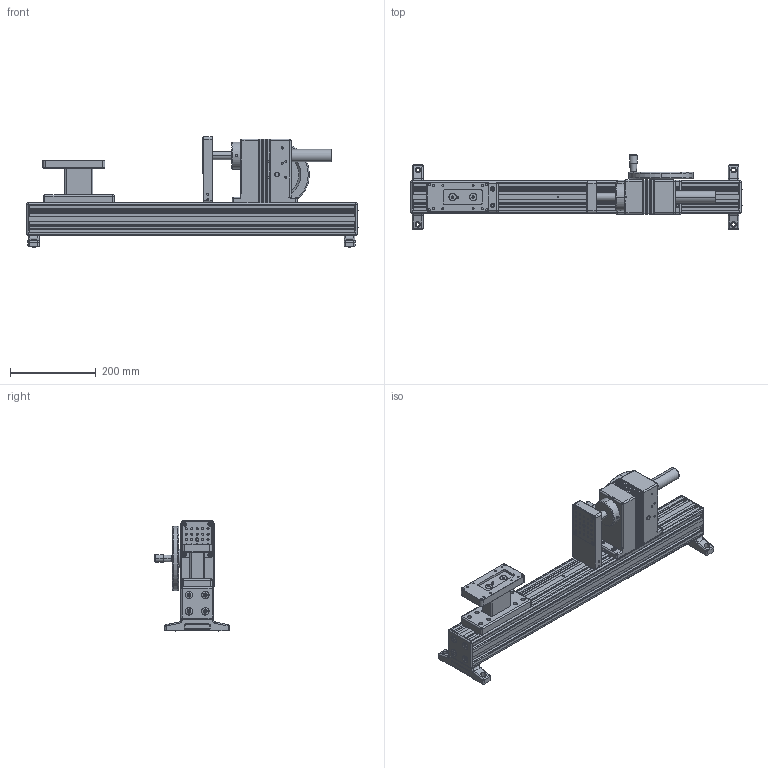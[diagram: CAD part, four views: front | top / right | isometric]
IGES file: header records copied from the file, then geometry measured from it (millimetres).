
Global section: file name: No Iges File Name specified; native system: Autodesk Inventor 2010; preprocessor: AutoDesk Inventor Iges Exporter R2010; author: mlampen; date: 20170621.152627; units: inch
Bounding box: 776.12 x 175.25 x 258.7 mm (x, y, z)
Volume: 4489039.1 mm3; surface area: 1026451.6 mm2
Topology: 27 solids, 31 shells, 2608 faces, 6794 edges, 4242 vertices
Faces by surface type: plane 1025, revolution 654, cylinder 447, cone 276, bspline 108, sphere 66, torus 32
Full cylindrical faces by diameter (mm): 2.474 x30, 3.505 x10
